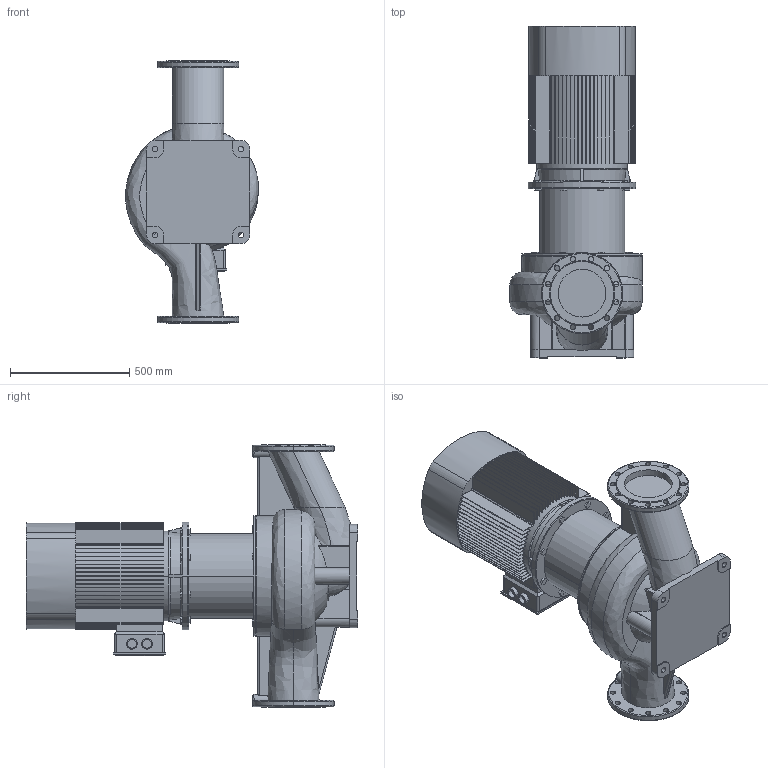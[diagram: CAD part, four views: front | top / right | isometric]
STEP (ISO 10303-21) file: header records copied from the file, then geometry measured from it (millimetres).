
FILE_DESCRIPTION (( 'STEP AP203' ), '1' );
FILE_NAME ('TD200-23_4.STEP', '2022-05-02T17:40:01', ( '' ), ( '' ), 'SwSTEP 2.0', 'SolidWorks 2019', '' );
FILE_SCHEMA (( 'CONFIG_CONTROL_DESIGN' ));
Length unit declared in the file: millimetre
Products named in the file (4): TD200-23_4; ED_B5_YE2-225S-4 (37); Pr_ch 200_TD200-23_4; Fon_200_TD200-23_4
Assembly tree (3 placements, depth 2):
  TD200-23_4
    Pr_ch 200_TD200-23_4
    Fon_200_TD200-23_4
    ED_B5_YE2-225S-4 (37)
Bounding box: 555.92 x 1389 x 1100 mm (x, y, z)
Volume: 196025352 mm3; surface area: 6520637.1 mm2
Topology: 5 solids, 7 shells, 816 faces, 2248 edges, 1492 vertices
Faces by surface type: plane 555, cylinder 189, torus 33, bspline 22, cone 17
Entity records: 35148 total; most frequent: CARTESIAN_POINT 13447, ORIENTED_EDGE 4496, DIRECTION 4418, EDGE_CURVE 2248, AXIS2_PLACEMENT_3D 1517, VERTEX_POINT 1492, VECTOR 1384, LINE 1384
